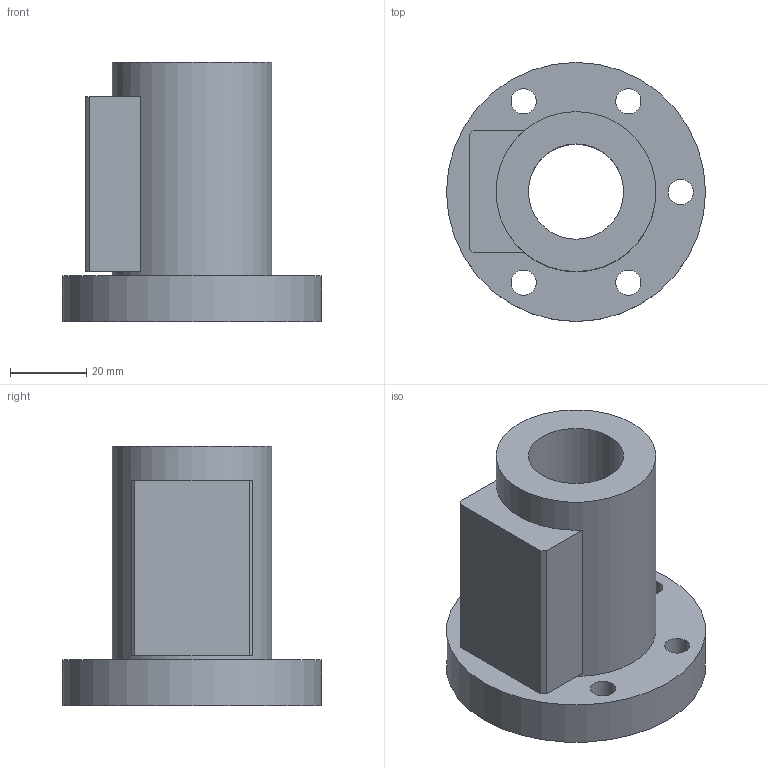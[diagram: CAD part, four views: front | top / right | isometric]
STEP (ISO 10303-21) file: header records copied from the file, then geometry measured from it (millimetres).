
FILE_DESCRIPTION(/* description */ (''),/* implementation_level */ '2;1');
FILE_NAME(/* name */ '25-6B2',/* time_stamp */ '2006-06-16T09:32:34+08:00',/* author */ (''),/* organization */ (''),/* preprocessor_version */ 'ST-DEVELOPER v9',/* originating_system */ 'UGS - NX 4.0',/* authorisation */ '');
FILE_SCHEMA (('CONFIG_CONTROL_DESIGN'));
Length unit declared in the file: millimetre
Products named in the file (1): 25-6B2
Bounding box: 68 x 68 x 68 mm (x, y, z)
Volume: 97342.7 mm3; surface area: 24586 mm2
Topology: 1 solids, 1 shells, 28 faces, 61 edges, 42 vertices
Faces by surface type: plane 15, cylinder 13
Full cylindrical faces by diameter (mm): 6.6 x5, 11 x5, 25 x1, 42 x1, 68 x1
Entity records: 794 total; most frequent: DIRECTION 130, CARTESIAN_POINT 111, ORIENTED_EDGE 88, EDGE_LOOP 60, AXIS2_PLACEMENT_3D 57, FACE_BOUND 45, EDGE_CURVE 44, VERTEX_POINT 38
